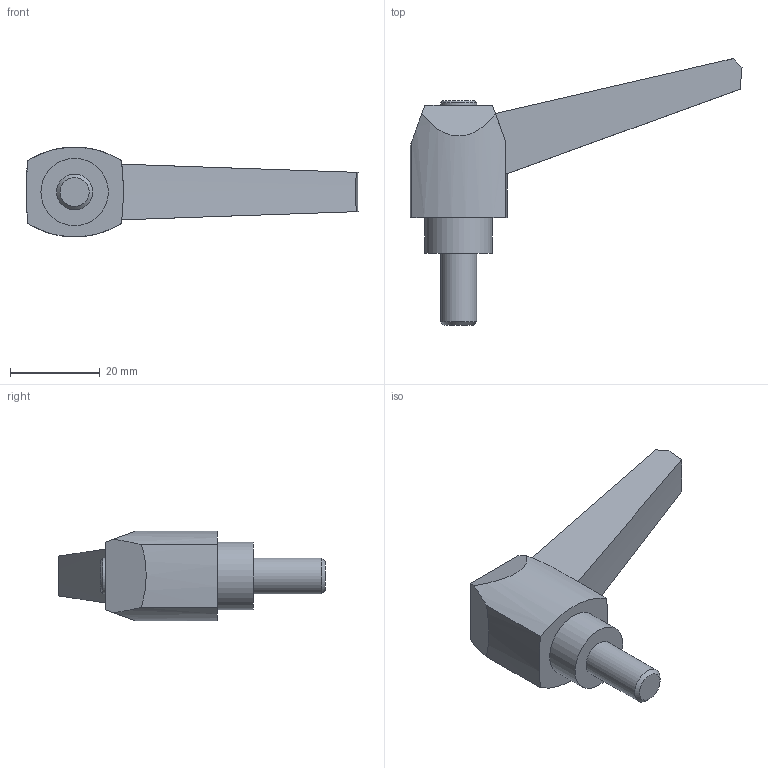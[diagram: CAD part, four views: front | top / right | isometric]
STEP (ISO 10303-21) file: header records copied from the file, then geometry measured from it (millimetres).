
FILE_DESCRIPTION( ( 'STEP AP203' ), '1' );
FILE_NAME( 'C:/Temp/Ganter_Step_05_03_2020/data/2_1/gn_500/gn_500_ms/Adjustable hand lever GN 500-63-M8-16-SW.stp', '2020-03-05T11:26:33', ( 'License CC BY-ND 4.0' ), ( 'CADENAS' ), ' ', 'PARTsolutions', ' ' );
FILE_SCHEMA( ( 'CONFIG_CONTROL_DESIGN' ) );
Length unit declared in the file: millimetre
Products named in the file (1): _Adjustable hand lever GN 500-63-M8-16-SW
Bounding box: 73.9 x 59.35 x 20 mm (x, y, z)
Volume: 17291.6 mm3; surface area: 5365.6 mm2
Topology: 1 solids, 1 shells, 24 faces, 56 edges, 37 vertices
Faces by surface type: plane 11, cylinder 7, cone 6
Full cylindrical faces by diameter (mm): 8 x2, 15 x1
Entity records: 708 total; most frequent: DIRECTION 122, CARTESIAN_POINT 117, ORIENTED_EDGE 100, EDGE_CURVE 50, AXIS2_PLACEMENT_3D 49, VERTEX_POINT 36, EDGE_LOOP 32, FACE_OUTER_BOUND 27
